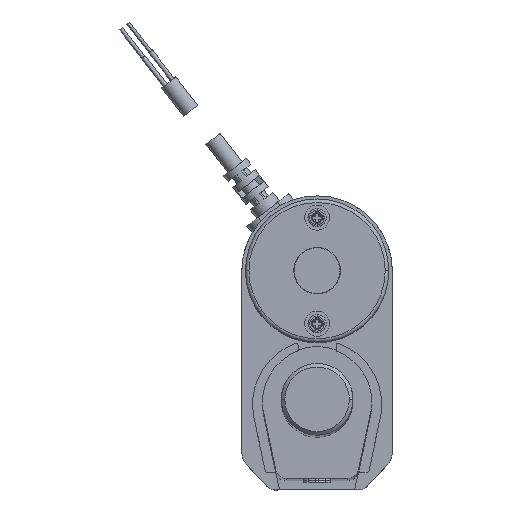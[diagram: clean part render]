
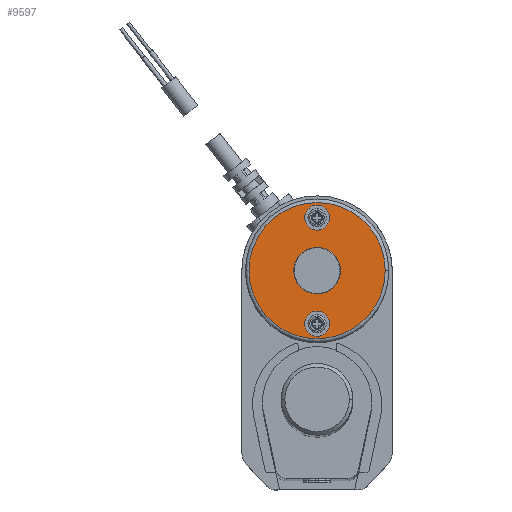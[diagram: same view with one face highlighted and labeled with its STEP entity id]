
A CAD part, top view. The second image highlights one B-rep face of the part: STEP entity #9597.
In plain terms, the highlighted planar face has unit normal (0, 0, 1).
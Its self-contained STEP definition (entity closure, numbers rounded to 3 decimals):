
#208 = DIRECTION ( 'NONE',  ( 0., 0., 1. ) ) ;
#295 = DIRECTION ( 'NONE',  ( -1., 0., 0. ) ) ;
#1097 = CARTESIAN_POINT ( 'NONE',  ( 0., 21.154, 95. ) ) ;
#1436 = CARTESIAN_POINT ( 'NONE',  ( 19., 21.154, 95. ) ) ;
#1548 = CARTESIAN_POINT ( 'NONE',  ( 0., 21.154, 95. ) ) ;
#1829 = AXIS2_PLACEMENT_3D ( 'NONE', #1097, #4767, #5824 ) ;
#1991 = EDGE_CURVE ( 'NONE', #14487, #5755, #12047, .T. ) ;
#2514 = PLANE ( 'NONE',  #6871 ) ;
#2584 = CARTESIAN_POINT ( 'NONE',  ( 0., 35.954, 95. ) ) ;
#3171 = DIRECTION ( 'NONE',  ( -1., 0., 0. ) ) ;
#3261 = EDGE_CURVE ( 'NONE', #5755, #14487, #9397, .T. ) ;
#3696 = DIRECTION ( 'NONE',  ( -1., 0., 0. ) ) ;
#4024 = AXIS2_PLACEMENT_3D ( 'NONE', #2584, #208, #3696 ) ;
#4366 = CARTESIAN_POINT ( 'NONE',  ( 0., 35.954, 95. ) ) ;
#4520 = CARTESIAN_POINT ( 'NONE',  ( 0., 6.354, 95. ) ) ;
#4647 = DIRECTION ( 'NONE',  ( 0., 0., 1. ) ) ;
#4697 = DIRECTION ( 'NONE',  ( -1., 0., 0. ) ) ;
#4767 = DIRECTION ( 'NONE',  ( 0., 0., 1. ) ) ;
#4962 = CARTESIAN_POINT ( 'NONE',  ( -1.5, 35.954, 95. ) ) ;
#5330 = ORIENTED_EDGE ( 'NONE', *, *, #14406, .F. ) ;
#5531 = ORIENTED_EDGE ( 'NONE', *, *, #1991, .T. ) ;
#5755 = VERTEX_POINT ( 'NONE', #1436 ) ;
#5824 = DIRECTION ( 'NONE',  ( -1., 0., 0. ) ) ;
#5839 = DIRECTION ( 'NONE',  ( 0., 0., 1. ) ) ;
#5939 = CIRCLE ( 'NONE', #12621, 1.5 ) ;
#6027 = FACE_BOUND ( 'NONE', #10945, .T. ) ;
#6028 = DIRECTION ( 'NONE',  ( 0., 0., 1. ) ) ;
#6093 = CIRCLE ( 'NONE', #10333, 1.5 ) ;
#6301 = CIRCLE ( 'NONE', #4024, 1.5 ) ;
#6871 = AXIS2_PLACEMENT_3D ( 'NONE', #7378, #6028, #8580 ) ;
#6898 = CARTESIAN_POINT ( 'NONE',  ( -19., 21.154, 95. ) ) ;
#6937 = DIRECTION ( 'NONE',  ( 0., 0., 1. ) ) ;
#7101 = CARTESIAN_POINT ( 'NONE',  ( 0., 6.354, 95. ) ) ;
#7230 = VERTEX_POINT ( 'NONE', #4962 ) ;
#7378 = CARTESIAN_POINT ( 'NONE',  ( 0., 21.154, 95. ) ) ;
#7491 = DIRECTION ( 'NONE',  ( 0., 0., 1. ) ) ;
#8089 = DIRECTION ( 'NONE',  ( -1., 0., 0. ) ) ;
#8156 = ORIENTED_EDGE ( 'NONE', *, *, #12625, .F. ) ;
#8580 = DIRECTION ( 'NONE',  ( -1., 0., 0. ) ) ;
#8754 = CARTESIAN_POINT ( 'NONE',  ( -1.5, 6.354, 95. ) ) ;
#9354 = ORIENTED_EDGE ( 'NONE', *, *, #14805, .F. ) ;
#9397 = CIRCLE ( 'NONE', #1829, 19. ) ;
#9404 = FACE_OUTER_BOUND ( 'NONE', #9941, .T. ) ;
#9597 = ADVANCED_FACE ( 'NONE', ( #10329, #6027, #9404 ), #2514, .T. ) ;
#9941 = EDGE_LOOP ( 'NONE', ( #5531, #14765 ) ) ;
#10073 = EDGE_LOOP ( 'NONE', ( #9354, #11048 ) ) ;
#10329 = FACE_BOUND ( 'NONE', #10073, .T. ) ;
#10333 = AXIS2_PLACEMENT_3D ( 'NONE', #7101, #4647, #4697 ) ;
#10945 = EDGE_LOOP ( 'NONE', ( #5330, #8156 ) ) ;
#11048 = ORIENTED_EDGE ( 'NONE', *, *, #15207, .F. ) ;
#11247 = VERTEX_POINT ( 'NONE', #12612 ) ;
#11888 = CARTESIAN_POINT ( 'NONE',  ( 1.5, 35.954, 95. ) ) ;
#12047 = CIRCLE ( 'NONE', #13052, 19. ) ;
#12145 = AXIS2_PLACEMENT_3D ( 'NONE', #4366, #6937, #3171 ) ;
#12612 = CARTESIAN_POINT ( 'NONE',  ( 1.5, 6.354, 95. ) ) ;
#12621 = AXIS2_PLACEMENT_3D ( 'NONE', #4520, #5839, #8089 ) ;
#12625 = EDGE_CURVE ( 'NONE', #11247, #12907, #5939, .T. ) ;
#12907 = VERTEX_POINT ( 'NONE', #8754 ) ;
#13052 = AXIS2_PLACEMENT_3D ( 'NONE', #1548, #7491, #295 ) ;
#13058 = CIRCLE ( 'NONE', #12145, 1.5 ) ;
#13364 = VERTEX_POINT ( 'NONE', #11888 ) ;
#14406 = EDGE_CURVE ( 'NONE', #12907, #11247, #6093, .T. ) ;
#14487 = VERTEX_POINT ( 'NONE', #6898 ) ;
#14765 = ORIENTED_EDGE ( 'NONE', *, *, #3261, .T. ) ;
#14805 = EDGE_CURVE ( 'NONE', #7230, #13364, #13058, .T. ) ;
#15207 = EDGE_CURVE ( 'NONE', #13364, #7230, #6301, .T. ) ;
